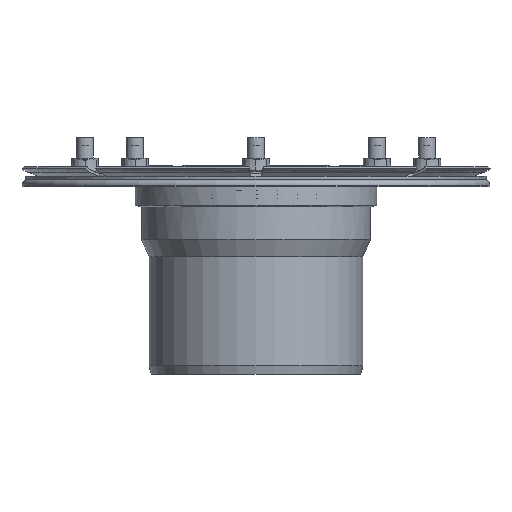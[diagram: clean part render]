
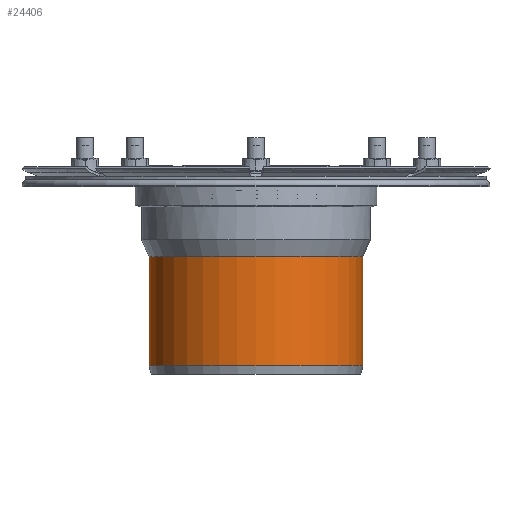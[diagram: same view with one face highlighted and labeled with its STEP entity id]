
A CAD part, front view. The second image highlights one B-rep face of the part: STEP entity #24406.
In plain terms, the highlighted cylindrical face has radius 62.5 mm (diameter 125 mm), a full revolution.
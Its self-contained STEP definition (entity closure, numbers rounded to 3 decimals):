
#1432=CYLINDRICAL_SURFACE('',#27117,62.5);
#1829=FACE_BOUND('',#4904,.T.);
#3230=FACE_OUTER_BOUND('',#4903,.T.);
#4903=EDGE_LOOP('',(#19056));
#4904=EDGE_LOOP('',(#19057));
#8122=CIRCLE('',#27115,62.5);
#8124=CIRCLE('',#27118,62.5);
#10214=VERTEX_POINT('',#44986);
#10216=VERTEX_POINT('',#44991);
#13263=EDGE_CURVE('',#10214,#10214,#8122,.T.);
#13265=EDGE_CURVE('',#10216,#10216,#8124,.T.);
#19056=ORIENTED_EDGE('',*,*,#13265,.T.);
#19057=ORIENTED_EDGE('',*,*,#13263,.F.);
#24406=ADVANCED_FACE('',(#3230,#1829),#1432,.T.);
#27115=AXIS2_PLACEMENT_3D('',#44987,#33040,#33041);
#27117=AXIS2_PLACEMENT_3D('',#44990,#33044,#33045);
#27118=AXIS2_PLACEMENT_3D('',#44992,#33046,#33047);
#33040=DIRECTION('center_axis',(0.,0.,
1.));
#33041=DIRECTION('ref_axis',(0.,1.,0.));
#33044=DIRECTION('center_axis',(0.,0.,
1.));
#33045=DIRECTION('ref_axis',(0.,1.,0.));
#33046=DIRECTION('center_axis',(0.,0.,
1.));
#33047=DIRECTION('ref_axis',(0.,1.,0.));
#44986=CARTESIAN_POINT('',(0.,62.5,-43.03));
#44987=CARTESIAN_POINT('Origin',(0.,0.,
-43.03));
#44990=CARTESIAN_POINT('Origin',(0.,0.,
-6.66));
#44991=CARTESIAN_POINT('',(0.,-62.5,-106.72));
#44992=CARTESIAN_POINT('Origin',(0.,0.,
-106.72));
